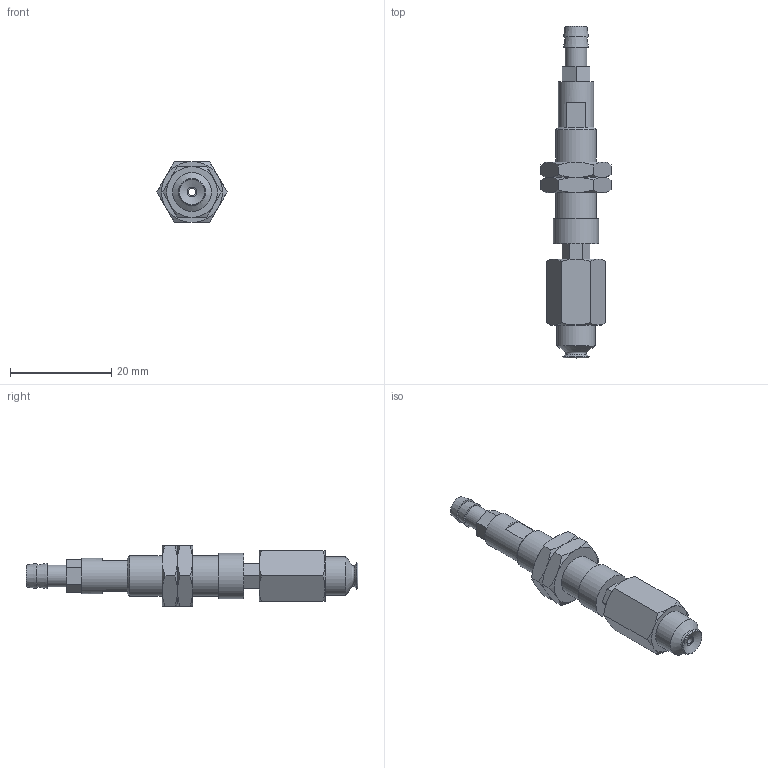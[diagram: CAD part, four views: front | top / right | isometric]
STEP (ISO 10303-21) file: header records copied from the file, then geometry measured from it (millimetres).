
FILE_DESCRIPTION(('STEP AP203'),'1');
FILE_NAME('-T.stp','2025-08-27T02:48:08',(' '),(' '),'Spatial InterOp 3D',' ',' ');
FILE_SCHEMA(('CONFIG_CONTROL_DESIGN'));
Length unit declared in the file: millimetre
Products named in the file (7): BNABPFTH-5A-3-※-T; ADAPTER; NAPATH-10A-3--M; Nut-5A-3-h; NAPFTH-5A-3-FBODY; BPFG-5A-※; T
Assembly tree (7 placements, depth 2):
  BNABPFTH-5A-3-※-T
    ADAPTER
    NAPATH-10A-3--M
    Nut-5A-3-h  x2
    NAPFTH-5A-3-FBODY
    BPFG-5A-※
    T
Bounding box: 13.86 x 65.5 x 12 mm (x, y, z)
Volume: 3430 mm3; surface area: 4211.1 mm2
Topology: 7 solids, 7 shells, 140 faces, 299 edges, 183 vertices
Faces by surface type: plane 64, cone 49, cylinder 17, torus 9, bspline 1
Full cylindrical faces by diameter (mm): 1.4 x1, 2 x2, 3 x1, 4 x2, 4.134 x1, 4.3 x1, 5 x1, 6 x2, 7 x1, 7.188 x2, 7.7 x1, 8 x1, 9 x1
Entity records: 3465 total; most frequent: CARTESIAN_POINT 792, DIRECTION 486, ORIENTED_EDGE 410, AXIS2_PLACEMENT_3D 205, EDGE_CURVE 205, EDGE_LOOP 176, VERTEX_POINT 147, FACE_OUTER_BOUND 143
